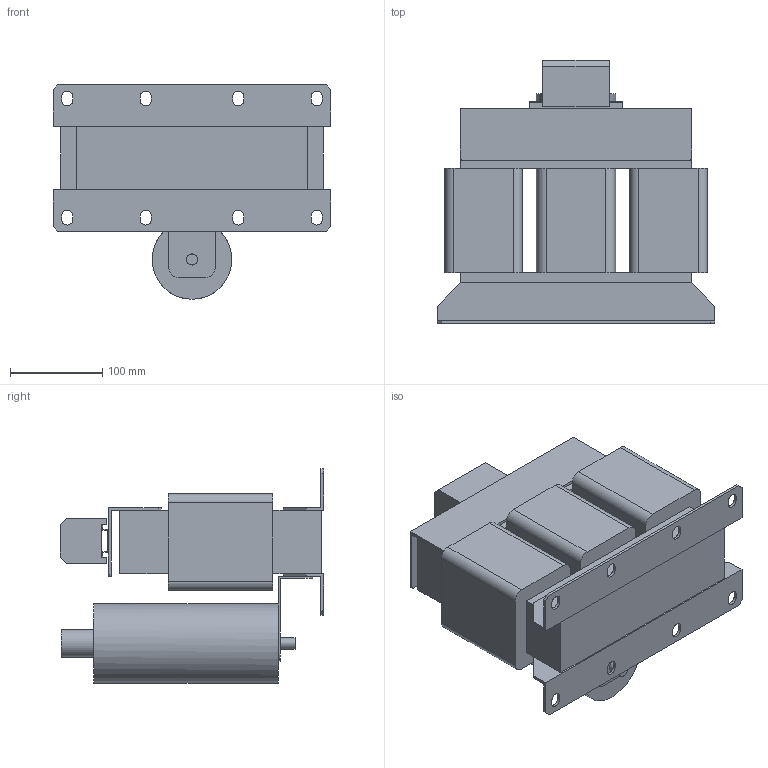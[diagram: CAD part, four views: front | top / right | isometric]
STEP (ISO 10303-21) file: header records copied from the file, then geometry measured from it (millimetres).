
FILE_DESCRIPTION(/* description */ (''),/* implementation_level */ '2;1');
FILE_NAME(/* name */ 'Sin-T4-062.stp',/* time_stamp */ '2025-03-10T15:20:46+04:00',/* author */ ('Лео'),/* organization */ (''),/* preprocessor_version */ 'ST-DEVELOPER v19.2',/* originating_system */ 'Autodesk Inventor 2024',/* authorisation */ '');
FILE_SCHEMA (('AUTOMOTIVE_DESIGN { 1 0 10303 214 3 1 1 }'));
Length unit declared in the file: millimetre
Products named in the file (1): Sin-T4-004
Bounding box: 300 x 285 x 232 mm (x, y, z)
Volume: 6382587.4 mm3; surface area: 586224.6 mm2
Topology: 11 solids, 11 shells, 155 faces, 391 edges, 260 vertices
Faces by surface type: plane 116, cylinder 39
Full cylindrical faces by diameter (mm): 12 x1, 30 x1, 86 x1
Entity records: 4694 total; most frequent: CARTESIAN_POINT 807, DIRECTION 783, ORIENTED_EDGE 782, EDGE_CURVE 391, LINE 311, VECTOR 311, VERTEX_POINT 260, AXIS2_PLACEMENT_3D 236
